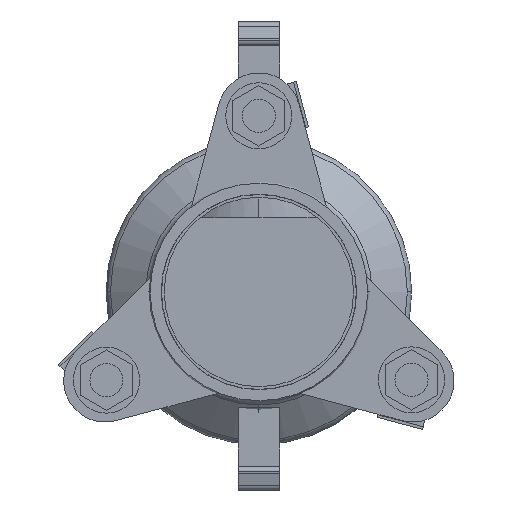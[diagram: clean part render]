
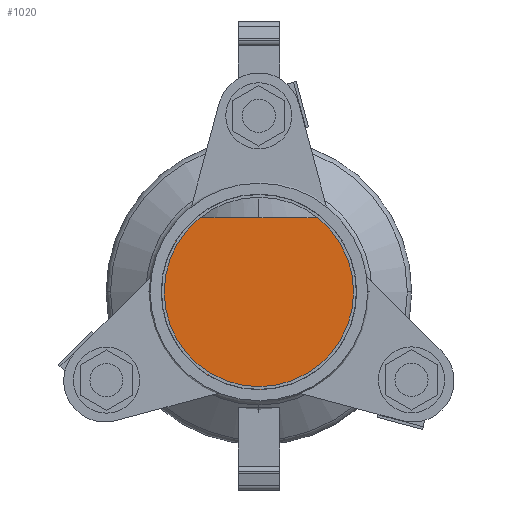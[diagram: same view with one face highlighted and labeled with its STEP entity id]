
A CAD part, left-side view. The second image highlights one B-rep face of the part: STEP entity #1020.
In plain terms, the highlighted planar face has unit normal (-1, 0, 0).
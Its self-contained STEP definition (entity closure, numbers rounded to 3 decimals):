
#1020=ADVANCED_FACE('',(#1945),#1946,.F.);
#1945=FACE_OUTER_BOUND('',#3023,.T.);
#1946=PLANE('',#3024);
#3023=EDGE_LOOP('',(#4842,#4843));
#3024=AXIS2_PLACEMENT_3D('',#4844,#4845,#4846);
#4842=ORIENTED_EDGE('',*,*,#6173,.T.);
#4843=ORIENTED_EDGE('',*,*,#6552,.T.);
#4844=CARTESIAN_POINT('',(87.0,0.0,0.));
#4845=DIRECTION('',(1.0,0.0,0.));
#4846=DIRECTION('',(0.,0.0,-1.0));
#6173=EDGE_CURVE('',#7357,#7368,#7370,.T.);
#6552=EDGE_CURVE('',#7368,#7357,#7905,.T.);
#7357=VERTEX_POINT('',#9002);
#7368=VERTEX_POINT('',#9100);
#7370=CIRCLE('',#9103,36.0);
#7905=CIRCLE('',#9949,36.0);
#9002=CARTESIAN_POINT('',(87.0,0.0,-36.0));
#9100=CARTESIAN_POINT('',(87.0,0.,36.0));
#9103=AXIS2_PLACEMENT_3D('',#10766,#10767,#10768);
#9949=AXIS2_PLACEMENT_3D('',#11192,#11193,#11194);
#10766=CARTESIAN_POINT('',(87.0,0.0,0.));
#10767=DIRECTION('',(-1.0,-0.0,0.));
#10768=DIRECTION('',(0.,0.0,-1.0));
#11192=CARTESIAN_POINT('',(87.0,0.0,0.));
#11193=DIRECTION('',(-1.0,-0.0,0.));
#11194=DIRECTION('',(0.,0.0,-1.0));
